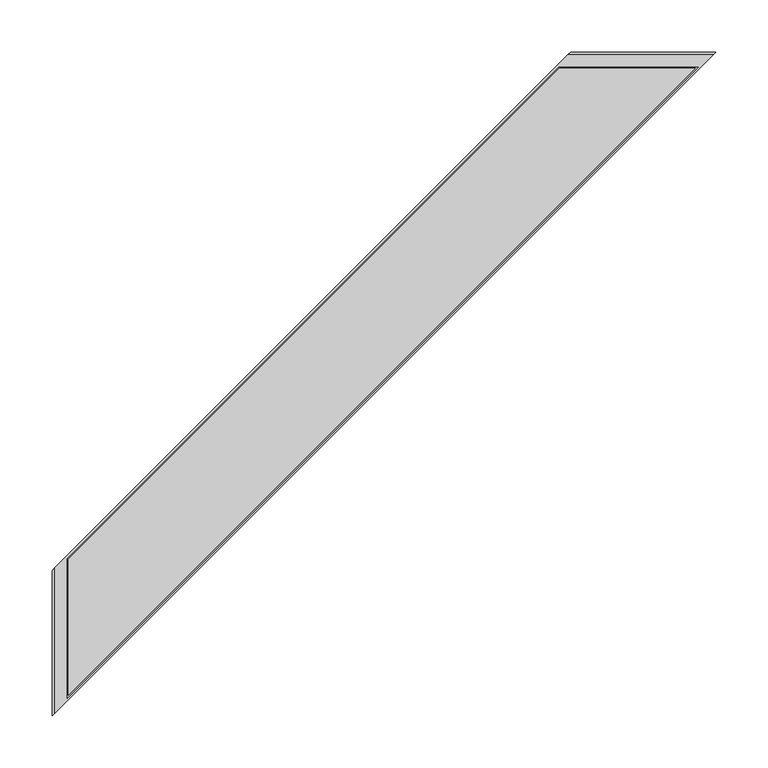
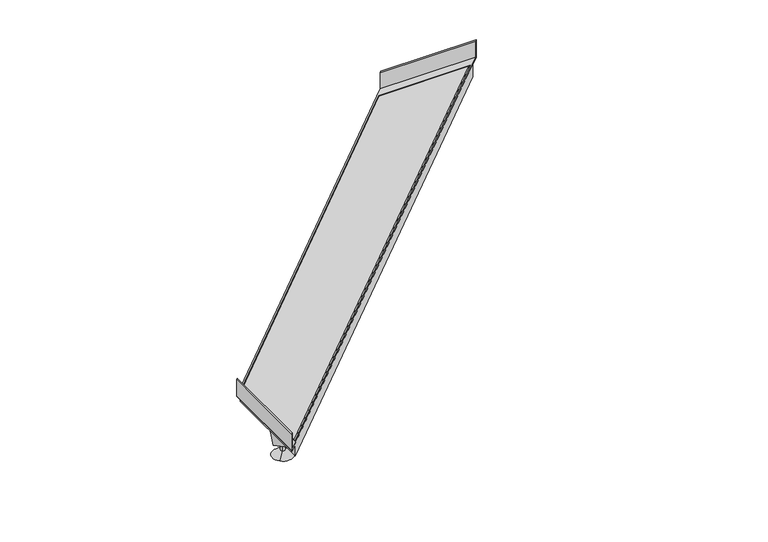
"""IFC4 building model written with IfcOpenShell, lengths in millimetres: sanitary terminal geometry, NLRS_PF_52_UN_Multi Trapezium in_uitloop_Easydrain : Multi Trapezium zijuitloop hoog 50mm, zij-ingang 40mm."""

import ifcopenshell
import ifcopenshell.guid

model = None  # the IFC model being written
_history = None  # IfcOwnerHistory: only IFC2X3 demands one
_inside = {}  # id of a spatial element -> (the spatial element, [elements in it])
_under = {}  # id of a project, library or spatial element -> (it, [spatial elements below it])
_declared = {}  # id of a project -> (the project, [libraries it declares])
_typed = {}  # id of a type object -> (the type object, [elements of that type])
_made_of = {}  # id of a material, layer set ... -> (it, [elements and type objects made of it])


def new_model(schema):
    """Start an empty IFC model of exactly this schema.

    Asked for "IFC4X3", IfcOpenShell would pick the latest addendum, in which some entities
    have other attributes; the version numbers below select the first issue.
    IFC2X3 requires an IfcOwnerHistory on every rooted entity: one is made here for all.
    """
    global model, _history
    if schema == "IFC4X3":
        model = ifcopenshell.file(schema_version=(4, 3, 0, 0))
    else:
        model = ifcopenshell.file(schema=schema)
    _inside.clear()
    _under.clear()
    _declared.clear()
    _typed.clear()
    _made_of.clear()
    _history = None
    if model.schema == "IFC2X3":
        org = make("IfcOrganization", Name="unknown")
        user = make(
            "IfcPersonAndOrganization",
            ThePerson=make("IfcPerson", FamilyName="unknown"),
            TheOrganization=org,
        )
        app = make(
            "IfcApplication",
            ApplicationDeveloper=org,
            Version="unknown",
            ApplicationFullName="unknown",
            ApplicationIdentifier="unknown",
        )
        _history = make(
            "IfcOwnerHistory",
            OwningUser=user,
            OwningApplication=app,
            ChangeAction="ADDED",
            CreationDate=0,
        )
    return model


def make(cls, **values):
    """One entity of the class cls with the attributes given. An attribute that is None is left unset."""
    return model.create_entity(
        cls, **{name: value for name, value in values.items() if value is not None}
    )


def rooted(cls, **values):
    """An entity with a GlobalId (a new one), such as an element, a storey or a relation."""
    return make(cls, GlobalId=ifcopenshell.guid.new(), OwnerHistory=_history, **values)


def si_unit(unit_type, name, prefix=None):
    """IfcSIUnit, for example si_unit("LENGTHUNIT", "METRE", prefix="MILLI")."""
    return make("IfcSIUnit", UnitType=unit_type, Prefix=prefix, Name=name)


def assignment(units):
    """IfcUnitAssignment: the units of a project."""
    return None if units is None else make("IfcUnitAssignment", Units=units)


def point(xyz):
    """IfcCartesianPoint."""
    return None if xyz is None else make("IfcCartesianPoint", Coordinates=xyz)


def direction(xyz):
    """IfcDirection."""
    return None if xyz is None else make("IfcDirection", DirectionRatios=xyz)


def frame(location, z_axis=None, x_axis=None):
    """IfcAxis2Placement3D, a coordinate frame: its origin and axes. An axis left out is left unset."""
    return make(
        "IfcAxis2Placement3D",
        Location=point(location),
        Axis=direction(z_axis),
        RefDirection=direction(x_axis),
    )


def origin():
    """The frame at (0, 0, 0) with its axes left unset."""
    return frame((0.0, 0.0, 0.0))


def place(relative_to, where):
    """IfcLocalPlacement: puts the frame where relative to a parent placement (None: the world)."""
    return make(
        "IfcLocalPlacement", PlacementRelTo=relative_to, RelativePlacement=where
    )


def context(
    kind, dimensions, precision=None, world=None, true_north=None, identifier=None
):
    """IfcGeometricRepresentationContext, for example the 3D "Model" context."""
    return make(
        "IfcGeometricRepresentationContext",
        ContextIdentifier=identifier,
        ContextType=kind,
        CoordinateSpaceDimension=dimensions,
        Precision=precision,
        WorldCoordinateSystem=world,
        TrueNorth=true_north,
    )


def project(units=None, contexts=None):
    """IfcProject with its units and contexts."""
    return rooted(
        "IfcProject",
        Name="project",
        RepresentationContexts=contexts,
        UnitsInContext=assignment(units),
    )


def spatial(cls, under=None, at=None, **own):
    """A site, building, storey or space (cls), placed at a placement, below another one or the project."""
    s = rooted(cls, ObjectPlacement=at, **own)
    if under is not None:
        _under.setdefault(under.id(), (under, []))[1].append(s)
    return s


def polyline(points):
    """IfcPolyline through the points."""
    return make("IfcPolyline", Points=[point(p) for p in points])


def circle_curve(where, radius):
    """IfcCircle in the frame where."""
    return make("IfcCircle", Position=where, Radius=radius)


def ellipse_curve(where, semi_axis1, semi_axis2):
    """IfcEllipse in the frame where."""
    return make(
        "IfcEllipse", Position=where, SemiAxis1=semi_axis1, SemiAxis2=semi_axis2
    )


def faces_of(points, faces, orient=None, outer=None):
    """IfcFace entities. A face is a list of loops; a loop is a list of indices into points, from 0.

    orient and outer hold one flag for each loop. By default every Orientation is true, the
    first loop of a face is its IfcFaceOuterBound and the others are IfcFaceBound.
    """
    made = []
    for i, loops in enumerate(faces):
        bounds = []
        for j, loop in enumerate(loops):
            is_outer = j == 0 if outer is None else outer[i][j]
            bounds.append(
                make(
                    "IfcFaceOuterBound" if is_outer else "IfcFaceBound",
                    Bound=make("IfcPolyLoop", Polygon=[points[k] for k in loop]),
                    Orientation=True if orient is None else orient[i][j],
                )
            )
        made.append(make("IfcFace", Bounds=bounds))
    return made


def faceted_brep(points, faces, orient=None, outer=None, voids=None):
    """IfcFacetedBrep: a solid bounded by flat faces; with voids (closed shells), ...WithVoids."""
    shared = [point(p) for p in points]
    hull = make("IfcClosedShell", CfsFaces=faces_of(shared, faces, orient, outer))
    if voids is None:
        return make("IfcFacetedBrep", Outer=hull)
    return make(
        "IfcFacetedBrepWithVoids",
        Outer=hull,
        Voids=[
            make(cls, CfsFaces=faces_of(shared, fs, o, b)) for cls, fs, o, b in voids
        ],
    )


def shape(context_of_items, identifier, shape_type, items):
    """IfcShapeRepresentation: the items that make up one representation, for example the "Body"."""
    return make(
        "IfcShapeRepresentation",
        ContextOfItems=context_of_items,
        RepresentationIdentifier=identifier,
        RepresentationType=shape_type,
        Items=items,
    )


def source(mapping_origin, context_of_items, identifier, shape_type, items):
    """IfcRepresentationMap: a shape defined once, which mapped items show again and again."""
    return make(
        "IfcRepresentationMap",
        MappingOrigin=mapping_origin,
        MappedRepresentation=shape(context_of_items, identifier, shape_type, items),
    )


def transform(
    local_origin,
    x_axis=None,
    y_axis=None,
    z_axis=None,
    scale=None,
    scale2=None,
    scale3=None,
    uniform=True,
):
    """IfcCartesianTransformationOperator3D, or its non-uniform kind. x_axis, y_axis, z_axis: its Axis1, 2, 3."""
    if uniform:
        return make(
            "IfcCartesianTransformationOperator3D",
            Axis1=direction(x_axis),
            Axis2=direction(y_axis),
            LocalOrigin=point(local_origin),
            Scale=scale,
            Axis3=direction(z_axis),
        )
    return make(
        "IfcCartesianTransformationOperator3DnonUniform",
        Axis1=direction(x_axis),
        Axis2=direction(y_axis),
        LocalOrigin=point(local_origin),
        Scale=scale,
        Axis3=direction(z_axis),
        Scale2=scale2,
        Scale3=scale3,
    )


def mapped(mapping_source, mapping_target):
    """IfcMappedItem: shows the shape of a source again, moved by a transform."""
    return make(
        "IfcMappedItem", MappingSource=mapping_source, MappingTarget=mapping_target
    )


def made_of(thing, what):
    """Note that an element or type object is made of a material, layer set ...; save() writes the relation."""
    if what is not None:
        _made_of.setdefault(what.id(), (what, []))[1].append(thing)
    return thing


def element(
    cls,
    number,
    at=None,
    inside=None,
    cuts=None,
    type_object=None,
    material=None,
    context=None,
    identifier="Body",
    shape_type=None,
    held_by="IfcProductDefinitionShape",
    body=None,
    shapes=None,
    **own,
):
    """One element of the class cls, such as IfcWall. Its Tag is "e" and its number.

    at: its placement. inside: the storey or other place that contains it. cuts: it is an
    opening in that element (IfcRelVoidsElement). A single representation is given by context,
    identifier, shape_type and body (its items); several are given by shapes. held_by: the class
    of the entity that holds the representations. save() writes the other relations.
    """
    e = rooted(cls, Tag="e%d" % number, ObjectPlacement=at, **own)
    if body is not None:
        shapes = [shape(context, identifier, shape_type, body)]
    if shapes is not None:
        e.Representation = make(held_by, Representations=shapes)
    if inside is not None:
        _inside.setdefault(inside.id(), (inside, []))[1].append(e)
    if cuts is not None:
        rooted(
            "IfcRelVoidsElement", RelatingBuildingElement=cuts, RelatedOpeningElement=e
        )
    if type_object is not None:
        _typed.setdefault(type_object.id(), (type_object, []))[1].append(e)
    return made_of(e, material)


def aggregate(whole, parts):
    """IfcRelAggregates: a whole, such as a stair, and the parts it consists of."""
    return rooted("IfcRelAggregates", RelatingObject=whole, RelatedObjects=parts)


def save(model, path):
    """Write the relations noted so far, then the file.

    IfcRelAggregates (storeys below a building ...), IfcRelContainedInSpatialStructure (elements
    in a storey), IfcRelDefinesByType, IfcRelAssociatesMaterial and IfcRelDeclares: one each for
    every whole, place, type object, material and project.
    """
    for whole, parts in _under.values():
        aggregate(whole, parts)
    for where, things in _inside.values():
        rooted(
            "IfcRelContainedInSpatialStructure",
            RelatedElements=things,
            RelatingStructure=where,
        )
    for kind, things in _typed.values():
        rooted("IfcRelDefinesByType", RelatedObjects=things, RelatingType=kind)
    for what, things in _made_of.values():
        rooted("IfcRelAssociatesMaterial", RelatedObjects=things, RelatingMaterial=what)
    for by, libraries in _declared.values():
        rooted("IfcRelDeclares", RelatingContext=by, RelatedDefinitions=libraries)
    model.write(path)


def plane_surface(at):
    """IfcPlane: the flat surface through the origin of the frame at, square to its z axis."""
    return make("IfcPlane", Position=at)


def cylinder_surface(at, radius):
    """IfcCylindricalSurface: all points at the distance radius from the z axis of the frame at."""
    return make("IfcCylindricalSurface", Position=at, Radius=radius)


def revolved_surface(curve, axis_point, axis_direction):
    """IfcSurfaceOfRevolution: the curve turned about the line through axis_point along axis_direction."""
    return make(
        "IfcSurfaceOfRevolution",
        SweptCurve=make("IfcArbitraryOpenProfileDef", ProfileType="CURVE", Curve=curve),
        AxisPosition=make("IfcAxis1Placement", Location=point(axis_point), Axis=direction(axis_direction)),
    )


def advanced_brep(points, edges, surfaces, faces):
    """IfcAdvancedBrep: a solid bounded by faces that lie on surfaces and meet in shared edges.

    An edge is (start, end): straight between two places in points (the first is 0);
    or (start, end, curve); or (start, end, curve, False) where it runs against its curve.
    A face is (place in surfaces, loops), or (place, loops, False) where it looks against
    its surface's normal. A loop lists edges by number (the first is 1), with a minus sign
    where the edge is run from its end to its start. The first loop is the outer one.
    """
    corners = [point(p) for p in points]
    vertices = [make("IfcVertexPoint", VertexGeometry=c) for c in corners]
    made = []
    for start, end, *more in edges:
        made.append(
            make(
                "IfcEdgeCurve",
                EdgeStart=vertices[start],
                EdgeEnd=vertices[end],
                EdgeGeometry=more[0] if more else make("IfcPolyline", Points=[corners[start], corners[end]]),
                SameSense=more[1] if len(more) > 1 else True,
            )
        )
    hull = []
    for where, loops, *sense in faces:
        bounds = []
        for j, loop in enumerate(loops):
            ring = [make("IfcOrientedEdge", EdgeElement=made[abs(k) - 1], Orientation=k > 0) for k in loop]
            bounds.append(
                make(
                    "IfcFaceOuterBound" if j == 0 else "IfcFaceBound",
                    Bound=make("IfcEdgeLoop", EdgeList=ring),
                    Orientation=True,
                )
            )
        hull.append(make("IfcAdvancedFace", Bounds=bounds, FaceSurface=surfaces[where], SameSense=sense[0] if sense else True))
    return make("IfcAdvancedBrep", Outer=make("IfcClosedShell", CfsFaces=hull))


def sanitary_terminal_ab72299f(model_context):
    return source(origin(), model_context, "Body", "SolidModel", [
        advanced_brep(
        [(535.2798334, -44.5477272, -60.0), (537.4011537, -42.4264069, -60.0), (539.522474, -40.3050865, -60.0), (535.2798334, -44.5477272, -71.5), (539.522474, -40.3050865, -71.5), (526.794552, -53.0330086, -79.0), (548.0077554, -31.8198052, -79.0), (537.4011537, -42.4264069, -79.0)],
        [
            (0, 1),
            (1, 2),
            (2, 0, circle_curve(frame((537.4011537, -42.4264069, -60.0), z_axis=(0.0, 0.0, 1.0), x_axis=(0.7071067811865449, 0.70710678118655, 0.0)), 3.0)),
            (0, 2, circle_curve(frame((537.4011537, -42.4264069, -60.0), z_axis=(0.0, 0.0, 1.0), x_axis=(0.7071067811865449, 0.70710678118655, 0.0)), 3.0)),
            (3, 0),
            (2, 4),
            (4, 3, circle_curve(frame((537.4011537, -42.4264069, -71.5), z_axis=(0.0, 0.0, 1.0), x_axis=(0.7071067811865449, 0.70710678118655, 0.0)), 3.0)),
            (3, 4, circle_curve(frame((537.4011537, -42.4264069, -71.5), z_axis=(0.0, 0.0, 1.0), x_axis=(0.7071067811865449, 0.70710678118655, 0.0)), 3.0)),
            (5, 3),
            (4, 6),
            (6, 5, circle_curve(frame((537.4011537, -42.4264069, -79.0), z_axis=(0.0, 0.0, 1.0), x_axis=(0.7071067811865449, 0.70710678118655, 0.0)), 15.0)),
            (5, 6, circle_curve(frame((537.4011537, -42.4264069, -79.0), z_axis=(0.0, 0.0, 1.0), x_axis=(0.7071067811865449, 0.70710678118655, 0.0)), 15.0)),
            (7, 5),
            (6, 7),
        ],
        [
            plane_surface(frame((537.4011537, -42.4264069, -60.0), z_axis=(0.0, 0.0, 1.0), x_axis=(0.707106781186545, 0.7071067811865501, 0.0))),
            cylinder_surface(frame((537.4011537, -42.4264069, -87.1782032), z_axis=(0.0, 0.0, -1.0), x_axis=(0.7071067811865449, 0.70710678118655, 0.0)), 3.0),
            revolved_surface(polyline([(539.522474, -40.3050865, -71.5), (548.0077554, -31.8198052, -79.0)]), (537.4011537, -42.4264069, -87.1782032), (0.0, 0.0, -1.0)),
            plane_surface(frame((537.4011537, -42.4264069, -79.0), z_axis=(0.0, 0.0, -1.0), x_axis=(0.707106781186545, 0.7071067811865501, 0.0))),
        ],
        [
            (0, [[1, 2, 3]]),
            (0, [[-2, -1, 4]]),
            (1, [[5, -3, 6, 7]]),
            (1, [[-6, -4, -5, 8]]),
            (2, [[9, -7, 10, 11]]),
            (2, [[-10, -8, -9, 12]]),
            (3, [[13, -11, 14]]),
            (3, [[-14, -12, -13]]),
        ],
    ),
        faceted_brep([(537.4011537, -28.2842712, -60.0), (551.5432893, -42.4264069, -60.0), (537.4011537, -56.5685425, -60.0), (523.2590181, -42.4264069, -60.0), (537.4011537, -21.2132034, -20.0), (516.1879503, -42.4264069, -20.0), (537.4011537, -63.6396103, -20.0), (558.6143571, -42.4264069, -20.0)], [[[0, 1, 2, 3]], [[4, 5, 6, 7]], [[7, 1, 0, 4]], [[6, 2, 1, 7]], [[5, 3, 2, 6]], [[4, 0, 3, 5]]]),
        advanced_brep(
        [(44.5477272, -535.2798334, -60.0), (40.3050865, -539.522474, -60.0), (42.4264069, -537.4011537, -60.0), (44.5477272, -535.2798334, -71.5), (40.3050865, -539.522474, -71.5), (53.0330086, -526.794552, -79.0), (31.8198052, -548.0077554, -79.0), (42.4264069, -537.4011537, -79.0)],
        [
            (0, 1, circle_curve(frame((42.4264069, -537.4011537, -60.0), z_axis=(0.0, 0.0, 1.0), x_axis=(-0.7071067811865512, -0.7071067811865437, 0.0)), 3.0)),
            (1, 2),
            (2, 0),
            (1, 0, circle_curve(frame((42.4264069, -537.4011537, -60.0), z_axis=(0.0, 0.0, 1.0), x_axis=(-0.7071067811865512, -0.7071067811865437, 0.0)), 3.0)),
            (3, 4, circle_curve(frame((42.4264069, -537.4011537, -71.5), z_axis=(0.0, 0.0, 1.0), x_axis=(-0.7071067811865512, -0.7071067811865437, 0.0)), 3.0)),
            (4, 1),
            (0, 3),
            (4, 3, circle_curve(frame((42.4264069, -537.4011537, -71.5), z_axis=(0.0, 0.0, 1.0), x_axis=(-0.7071067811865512, -0.7071067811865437, 0.0)), 3.0)),
            (5, 6, circle_curve(frame((42.4264069, -537.4011537, -79.0), z_axis=(0.0, 0.0, 1.0), x_axis=(-0.7071067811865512, -0.7071067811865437, 0.0)), 15.0)),
            (6, 4),
            (3, 5),
            (6, 5, circle_curve(frame((42.4264069, -537.4011537, -79.0), z_axis=(0.0, 0.0, 1.0), x_axis=(-0.7071067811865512, -0.7071067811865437, 0.0)), 15.0)),
            (7, 6),
            (5, 7),
        ],
        [
            plane_surface(frame((42.4264069, -537.4011537, -60.0), z_axis=(0.0, 0.0, 1.0000000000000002), x_axis=(-0.7071067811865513, -0.7071067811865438, 0.0))),
            cylinder_surface(frame((42.4264069, -537.4011537, -87.1782032), z_axis=(0.0, 0.0, -1.0), x_axis=(-0.7071067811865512, -0.7071067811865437, 0.0)), 3.0),
            revolved_surface(polyline([(40.3050865, -539.522474, -71.5), (31.8198052, -548.0077554, -79.0)]), (42.4264069, -537.4011537, -87.1782032), (0.0, 0.0, -1.0)),
            plane_surface(frame((42.4264069, -537.4011537, -79.0), z_axis=(0.0, 0.0, -1.0000000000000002), x_axis=(-0.7071067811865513, -0.7071067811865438, 0.0))),
        ],
        [
            (0, [[1, 2, 3]]),
            (0, [[4, -3, -2]]),
            (1, [[5, 6, -1, 7]]),
            (1, [[8, -7, -4, -6]]),
            (2, [[9, 10, -5, 11]]),
            (2, [[12, -11, -8, -10]]),
            (3, [[13, -9, 14]]),
            (3, [[-14, -12, -13]]),
        ],
    ),
        faceted_brep([(28.2842712, -537.4011537, -60.0), (42.4264069, -523.2590181, -60.0), (56.5685425, -537.4011537, -60.0), (42.4264069, -551.5432893, -60.0), (21.2132034, -537.4011537, -20.0), (42.4264069, -558.6143571, -20.0), (63.6396103, -537.4011537, -20.0), (42.4264069, -516.1879503, -20.0)], [[[0, 1, 2, 3]], [[4, 5, 6, 7]], [[5, 4, 0, 3]], [[6, 5, 3, 2]], [[7, 6, 2, 1]], [[4, 7, 1, 0]]]),
        advanced_brep(
        [(0.0, -494.9747468, 25.0), (0.0, -633.5676759, 25.0), (2.0, -631.5676759, 25.0), (2.0, -492.9747468, 25.0), (633.5676759, 0.0, 25.0), (494.9747468, 0.0, 25.0), (492.9747468, -2.0, 25.0), (631.5676759, -2.0, 25.0), (12.0, -621.5676759, -20.0), (12.0, -482.9747468, -20.0), (482.9747468, -12.0, -20.0), (621.5676759, -12.0, -20.0), (2.0, -492.9747468, 0.0), (492.9747468, -2.0, 0.0), (494.9747468, 0.0, -2.0), (482.9747468, -12.0, -2.0), (12.0, -482.9747468, -2.0), (2.0, -492.9747468, -2.0), (0.0, -494.9747468, 0.0), (0.0, -633.5676759, 0.0), (2.0, -631.5676759, -2.0), (12.0, -621.5676759, -2.0), (621.5676759, -12.0, -2.0), (633.5676759, 0.0, -2.0), (631.5676759, -2.0, 0.0), (2.0, -631.5676759, 0.0), (14.0, -616.7392488, 0.0), (14.0, -483.803174, 0.0), (483.803174, -14.0, 0.0), (616.7392488, -14.0, 0.0), (15.0, -484.2173875, 0.0), (15.0, -614.3250353, 0.0), (614.3250353, -15.0, 0.0), (484.2173875, -15.0, 0.0), (14.0, -616.7392488, -12.0), (14.0, -483.803174, -12.0), (15.0, -484.2173875, -12.0), (15.0, -614.3250353, -12.0), (616.7392488, -14.0, -12.0), (614.3250353, -15.0, -12.0), (483.803174, -14.0, -12.0), (484.2173875, -15.0, -12.0)],
        [
            (0, 1),
            (1, 2),
            (2, 3),
            (3, 0),
            (4, 5),
            (5, 6),
            (6, 7),
            (7, 4),
            (8, 9),
            (9, 10),
            (10, 11),
            (11, 8),
            (3, 12),
            (12, 13),
            (13, 6),
            (5, 14),
            (14, 15),
            (15, 10),
            (9, 16),
            (16, 17),
            (17, 18, ellipse_curve(frame((2.0, -492.9747468, 0.0), z_axis=(-0.707106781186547, 0.7071067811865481, 0.0), x_axis=(0.7071067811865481, 0.7071067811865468, 0.0)), 2.8284271, 2.0)),
            (18, 0),
            (18, 19),
            (19, 1),
            (19, 20, ellipse_curve(frame((2.0, -631.5676759, 0.0), z_axis=(0.707106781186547, -0.7071067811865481, 0.0), x_axis=(0.7071067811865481, 0.7071067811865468, 0.0)), 2.8284271, 2.0)),
            (20, 21),
            (21, 8),
            (11, 22),
            (22, 23),
            (23, 4),
            (7, 24),
            (24, 25),
            (25, 2),
            (23, 14),
            (12, 25),
            (24, 13),
            (26, 27),
            (27, 28),
            (28, 29),
            (29, 26),
            (30, 31),
            (31, 32),
            (32, 33),
            (33, 30),
            (16, 21),
            (20, 17),
            (22, 15),
            (26, 34),
            (34, 35),
            (35, 27),
            (36, 37),
            (37, 31),
            (30, 36),
            (29, 38),
            (38, 34),
            (37, 39),
            (39, 32),
            (28, 40),
            (40, 38),
            (39, 41),
            (41, 33),
            (35, 40),
            (41, 36),
        ],
        [
            plane_surface(frame((0.0, -494.9747468, 25.0), z_axis=(0.0, 0.0, 1.0000000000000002), x_axis=(-0.7071067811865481, -0.707106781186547, 0.0))),
            plane_surface(frame((0.0, -494.9747468, -20.0), z_axis=(0.0, 0.0, -1.0000000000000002), x_axis=(0.7071067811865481, 0.707106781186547, 0.0))),
            plane_surface(frame((494.9747468, 0.0, 25.0), z_axis=(-0.707106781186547, 0.7071067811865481, 0.0), x_axis=(0.0, 0.0, -1.0))),
            plane_surface(frame((0.0, -494.9747468, 25.0), z_axis=(-1.0, 0.0, 0.0), x_axis=(0.0, 0.0, -1.0))),
            plane_surface(frame((0.0, -633.5676759, 25.0), z_axis=(0.707106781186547, -0.7071067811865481, 0.0), x_axis=(0.0, 0.0, -1.0))),
            plane_surface(frame((633.5676759, 0.0, 25.0), z_axis=(0.0, 1.0, 0.0), x_axis=(0.0, 0.0, -1.0))),
            plane_surface(frame((2.0, -492.9747468, 0.0), z_axis=(0.0, 0.0, 1.0), x_axis=(0.0, 1.0, 0.0))),
            plane_surface(frame((2.0, -492.9747468, 25.0), z_axis=(1.0, 0.0, 0.0), x_axis=(0.0, 0.0, -1.0))),
            plane_surface(frame((631.5676759, -2.0, 25.0), z_axis=(0.0, -1.0, 0.0), x_axis=(0.0, 0.0, -1.0))),
            plane_surface(frame((12.0, -712.5909744, -2.0), z_axis=(0.0, 0.0, -1.0), x_axis=(0.0, 1.0, 0.0))),
            plane_surface(frame((12.0, -712.5909744, -20.0), z_axis=(-1.0, 0.0, 0.0), x_axis=(0.0, 1.0, 0.0))),
            plane_surface(frame((712.5909744, 0.0, -2.0), z_axis=(0.0, 0.0, -1.0), x_axis=(-1.0, 0.0, 0.0))),
            plane_surface(frame((712.5909744, -12.0, -2.0), z_axis=(0.0, 1.0, 0.0), x_axis=(-1.0, 0.0, 0.0))),
            plane_surface(frame((14.0, -483.803174, -12.0), z_axis=(1.0, 0.0, 0.0), x_axis=(0.0, -1.0, 0.0))),
            plane_surface(frame((15.0, -484.2173875, 0.0), z_axis=(-1.0, 0.0, 0.0), x_axis=(0.0, -1.0, 0.0))),
            plane_surface(frame((14.0, -616.7392488, -12.0), z_axis=(-0.7071067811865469, 0.7071067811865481, 0.0), x_axis=(0.7071067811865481, 0.7071067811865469, 0.0))),
            plane_surface(frame((15.0, -614.3250353, 0.0), z_axis=(0.707106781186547, -0.7071067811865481, 0.0), x_axis=(0.7071067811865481, 0.707106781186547, 0.0))),
            plane_surface(frame((616.7392488, -14.0, -12.0), z_axis=(0.0, -1.0, 0.0), x_axis=(-1.0, 0.0, 0.0))),
            plane_surface(frame((614.3250353, -15.0, 0.0), z_axis=(0.0, 1.0, 0.0), x_axis=(-1.0, 0.0, 0.0))),
            plane_surface(frame((483.803174, -14.0, -12.0), z_axis=(0.7071067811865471, -0.707106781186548, 0.0), x_axis=(-0.707106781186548, -0.7071067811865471, 0.0))),
            plane_surface(frame((484.2173875, -15.0, 0.0), z_axis=(-0.7071067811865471, 0.707106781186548, 0.0), x_axis=(-0.707106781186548, -0.7071067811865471, 0.0))),
            plane_surface(frame((484.2173875, -15.0, -12.0), z_axis=(0.0, 0.0, 1.0000000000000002), x_axis=(-0.7071067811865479, -0.7071067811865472, 0.0))),
            cylinder_surface(frame((2.0, 0.0, 0.0), z_axis=(0.0, 1.0, 0.0), x_axis=(1.0, 0.0, 0.0)), 2.0),
        ],
        [
            (0, [[1, 2, 3, 4]]),
            (0, [[5, 6, 7, 8]]),
            (1, [[9, 10, 11, 12]]),
            (2, [[-4, 13, 14, 15, -6, 16, 17, 18, -10, 19, 20, 21, 22]]),
            (3, [[-1, -22, 23, 24]]),
            (4, [[-2, -24, 25, 26, 27, -12, 28, 29, 30, -8, 31, 32, 33]]),
            (5, [[-5, -30, 34, -16]]),
            (6, [[35, -32, 36, -14], [37, 38, 39, 40]]),
            (6, [[41, 42, 43, 44]]),
            (7, [[-35, -13, -3, -33]]),
            (8, [[-36, -31, -7, -15]]),
            (9, [[45, -26, 46, -20]]),
            (10, [[-45, -19, -9, -27]]),
            (11, [[47, -17, -34, -29]]),
            (12, [[-47, -28, -11, -18]]),
            (13, [[48, 49, 50, -37]]),
            (14, [[51, 52, -41, 53]]),
            (15, [[-48, -40, 54, 55]]),
            (16, [[-52, 56, 57, -42]]),
            (17, [[-54, -39, 58, 59]]),
            (18, [[-57, 60, 61, -43]]),
            (19, [[-50, 62, -58, -38]]),
            (20, [[-53, -44, -61, 63]]),
            (21, [[-49, -55, -59, -62], [-51, -63, -60, -56]]),
            (22, [[-46, -25, -23, -21]]),
        ],
    ),
    ])


if __name__ == "__main__":
    model = new_model("IFC4")
    model_context = context("Model", 3, world=origin())
    ifc_project = project(units=[si_unit("LENGTHUNIT", "METRE", prefix="MILLI")], contexts=[model_context])
    site = spatial("IfcSite", under=ifc_project)
    building = spatial("IfcBuilding", under=site)
    placement = place(None, origin())
    sanitary_terminal_shape = sanitary_terminal_ab72299f(model_context)
    element("IfcSanitaryTerminal", 1, ObjectType="NLRS_PF_52_UN_Multi Trapezium in_uitloop_Easydrain : Multi Trapezium zijuitloop hoog 50mm, zij-ingang 40mm", at=placement, inside=building, context=model_context, shape_type="MappedRepresentation", body=[
        mapped(sanitary_terminal_shape, transform((0.0, 0.0, 0.0), x_axis=(1.0, 0.0, 0.0), y_axis=(0.0, 1.0, 0.0), z_axis=(0.0, 0.0, 1.0))),
    ])
    save(model, "model.ifc")
